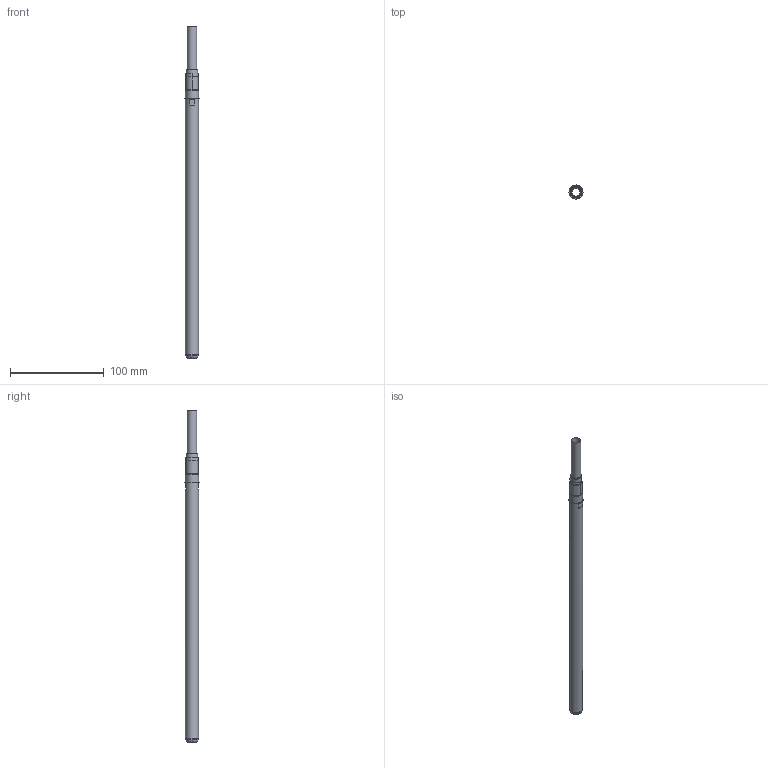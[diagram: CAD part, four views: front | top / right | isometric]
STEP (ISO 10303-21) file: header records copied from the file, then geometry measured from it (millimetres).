
FILE_DESCRIPTION(('STEP AP214'),'1');
FILE_NAME('LC-14P300-CON SEDE.stp','2025-10-28T13:11:37',(' '),(' '),'Spatial InterOp 3D',' ',' ');
FILE_SCHEMA(('AUTOMOTIVE_DESIGN { 1 0 10303 214 1 1 1 1 }'));
Length unit declared in the file: metre
Products named in the file (3): LC-14P300-SEDI; LC-14P300
Bounding box: 15 x 15 x 353.75 mm (x, y, z)
Volume: 26735.6 mm3; surface area: 25060.1 mm2
Topology: 1 solids, 3 shells, 23 faces, 51 edges, 35 vertices
Faces by surface type: plane 10, cylinder 7, cone 4, torus 2
Full cylindrical faces by diameter (mm): 9 x1, 10 x1, 12.01 x1, 13.15 x1, 14 x2
Entity records: 919 total; most frequent: DIRECTION 110, CARTESIAN_POINT 89, ORIENTED_EDGE 60, AXIS2_PLACEMENT_3D 50, STYLED_ITEM 49, PRESENTATION_STYLE_ASSIGNMENT 49, COLOUR_RGB 49, EDGE_LOOP 41
